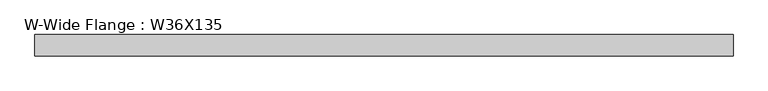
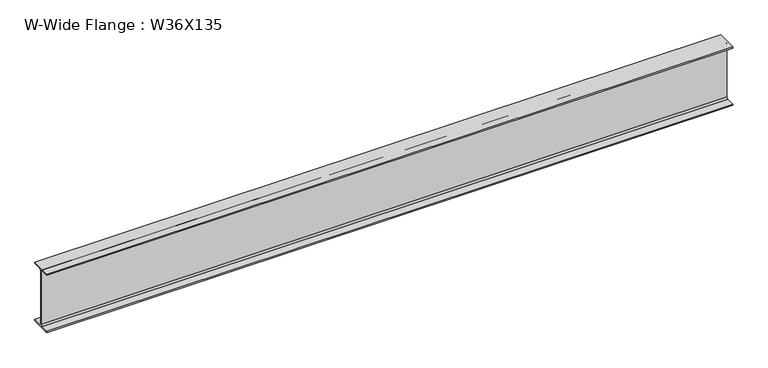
"""IFC4 building model written with IfcOpenShell, lengths in millimetres: beam geometry, W-Wide Flange : W36X135."""

from ifc_helpers import new_model, si_unit, point, frame, frame_2d, origin, place, context, project, spatial, polyline, circle_curve, trimmed, segment, composite_curve, outline, extrude, source, transform, mapped, element, save


def w_wide_flange_w36x135_915bd06f(model_context):
    return source(origin(), model_context, "Body", "SweptSolid", [
        extrude(outline(composite_curve([segment(polyline([(152.4, -432.054), (152.4, -452.12), (-152.4, -452.12), (-152.4, -432.054), (-30.4165, -432.054)]), True, "CONTINUOUS"), segment(trimmed(circle_curve(frame_2d((-30.4165, -409.2575)), 22.7965), [point((-30.4165, -432.054))], [point((-7.62, -409.2575))], True, "CARTESIAN"), True, "CONTINUOUS"), segment(polyline([(-7.62, -409.2575), (-7.62, 409.2575)]), True, "CONTINUOUS"), segment(trimmed(circle_curve(frame_2d((-30.4165, 409.2575)), 22.7965), [point((-7.62, 409.2575))], [point((-30.4165, 432.054))], True, "CARTESIAN"), True, "CONTINUOUS"), segment(polyline([(-30.4165, 432.054), (-152.4, 432.054), (-152.4, 452.12), (152.4, 452.12), (152.4, 432.054), (30.4165, 432.054)]), True, "CONTINUOUS"), segment(trimmed(circle_curve(frame_2d((30.4165, 409.2575)), 22.7965), [point((30.4165, 432.054))], [point((7.62, 409.2575))], True, "CARTESIAN"), True, "CONTINUOUS"), segment(polyline([(7.62, 409.2575), (7.62, -409.2575)]), True, "CONTINUOUS"), segment(trimmed(circle_curve(frame_2d((30.4165, -409.2575)), 22.7965), [point((7.62, -409.2575))], [point((30.4165, -432.054))], True, "CARTESIAN"), True, "CONTINUOUS"), segment(polyline([(30.4165, -432.054), (152.4, -432.054)]), True, "CONTINUOUS")], self_intersect=False)), frame((-4965.3459352, 0.0, 0.0), z_axis=(1.0, 0.0, 0.0), x_axis=(0.0, 1.0, 0.0)), (0.0, 0.0, 1.0), 10026.09201),
    ])


if __name__ == "__main__":
    model = new_model("IFC4")
    model_context = context("Model", 3, world=origin())
    ifc_project = project(units=[si_unit("LENGTHUNIT", "METRE", prefix="MILLI")], contexts=[model_context])
    site = spatial("IfcSite", under=ifc_project)
    building = spatial("IfcBuilding", under=site)
    placement = place(None, origin())
    w_wide_flange_w36x135_shape = w_wide_flange_w36x135_915bd06f(model_context)
    element("IfcBeam", 1, ObjectType="W-Wide Flange : W36X135", at=placement, inside=building, context=model_context, shape_type="MappedRepresentation", body=[
        mapped(w_wide_flange_w36x135_shape, transform((0.0, 0.0, 0.0), x_axis=(1.0, 0.0, 0.0), y_axis=(0.0, 1.0, 0.0), z_axis=(0.0, 0.0, 1.0))),
    ])
    save(model, "model.ifc")
